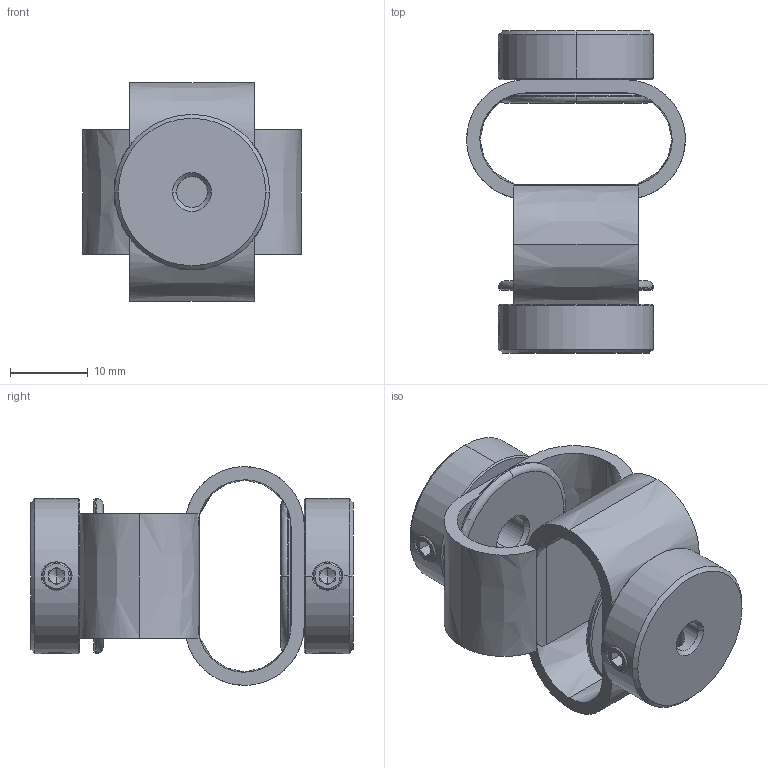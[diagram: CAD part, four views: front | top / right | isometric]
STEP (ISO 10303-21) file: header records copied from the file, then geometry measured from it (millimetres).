
FILE_DESCRIPTION (( 'STEP AP203' ), '1' );
FILE_NAME ('LS-D-D27L40-4-5.STEP', '2021-10-28T06:04:09', ( '' ), ( '' ), 'SwSTEP 2.0', 'SolidWorks 2018', '' );
FILE_SCHEMA (( 'CONFIG_CONTROL_DESIGN' ));
Length unit declared in the file: millimetre
Products named in the file (1): LS-D-D27L40-4-5
Bounding box: 28.2 x 41.54 x 28.2 mm (x, y, z)
Volume: 7509.9 mm3; surface area: 6695.6 mm2
Topology: 1 solids, 1 shells, 190 faces, 493 edges, 308 vertices
Faces by surface type: plane 86, cone 54, cylinder 30, bspline 16, torus 4
Entity records: 7776 total; most frequent: CARTESIAN_POINT 3207, ORIENTED_EDGE 970, DIRECTION 886, EDGE_CURVE 485, AXIS2_PLACEMENT_3D 345, VERTEX_POINT 308, EDGE_LOOP 217, VECTOR 196
